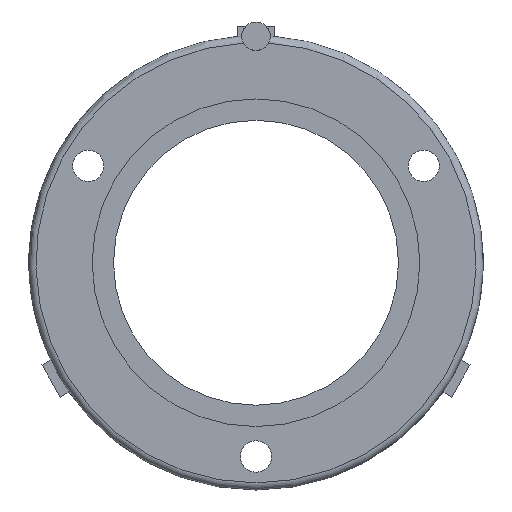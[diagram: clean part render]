
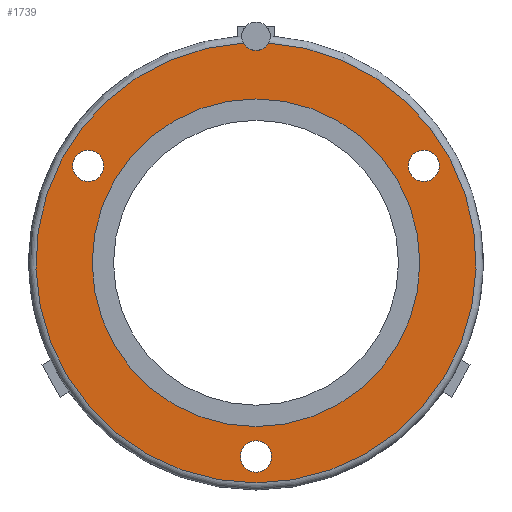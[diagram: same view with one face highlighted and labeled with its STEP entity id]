
A CAD part, left-side view. The second image highlights one B-rep face of the part: STEP entity #1739.
In plain terms, the highlighted planar face has unit normal (-1, 0, 0).
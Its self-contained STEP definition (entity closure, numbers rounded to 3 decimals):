
#97 = TOROIDAL_SURFACE('',#98,15.45,0.5);
#98 = AXIS2_PLACEMENT_3D('',#99,#100,#101);
#99 = CARTESIAN_POINT('',(13.,0.,181.));
#100 = DIRECTION('',(-1.,-0.,-0.));
#101 = DIRECTION('',(-0.,0.,1.));
#1216 = CYLINDRICAL_SURFACE('',#1217,1.);
#1217 = AXIS2_PLACEMENT_3D('',#1218,#1219,#1220);
#1218 = CARTESIAN_POINT('',(9.25,0.,196.9));
#1219 = DIRECTION('',(1.,0.,0.));
#1220 = DIRECTION('',(-0.,0.,1.));
#1256 = VERTEX_POINT('',#1257);
#1257 = CARTESIAN_POINT('',(12.5,-0.88,196.425));
#1325 = VERTEX_POINT('',#1326);
#1326 = CARTESIAN_POINT('',(12.5,0.88,196.425));
#1392 = EDGE_CURVE('',#1256,#1325,#1393,.T.);
#1393 = SURFACE_CURVE('',#1394,(#1399,#1406),.PCURVE_S1.);
#1394 = CIRCLE('',#1395,15.45);
#1395 = AXIS2_PLACEMENT_3D('',#1396,#1397,#1398);
#1396 = CARTESIAN_POINT('',(12.5,0.,181.));
#1397 = DIRECTION('',(1.,0.,0.));
#1398 = DIRECTION('',(-0.,0.,1.));
#1399 = PCURVE('',#97,#1400);
#1400 = DEFINITIONAL_REPRESENTATION('',(#1401),#1405);
#1401 = LINE('',#1402,#1403);
#1402 = CARTESIAN_POINT('',(-0.,1.571));
#1403 = VECTOR('',#1404,1.);
#1404 = DIRECTION('',(-1.,0.));
#1405 = ( GEOMETRIC_REPRESENTATION_CONTEXT(2) 
PARAMETRIC_REPRESENTATION_CONTEXT() REPRESENTATION_CONTEXT('2D SPACE',''
  ) );
#1406 = PCURVE('',#1407,#1412);
#1407 = PLANE('',#1408);
#1408 = AXIS2_PLACEMENT_3D('',#1409,#1410,#1411);
#1409 = CARTESIAN_POINT('',(12.5,0.,181.));
#1410 = DIRECTION('',(1.,0.,0.));
#1411 = DIRECTION('',(-0.,0.,1.));
#1412 = DEFINITIONAL_REPRESENTATION('',(#1413),#1417);
#1413 = CIRCLE('',#1414,15.45);
#1414 = AXIS2_PLACEMENT_2D('',#1415,#1416);
#1415 = CARTESIAN_POINT('',(0.,0.));
#1416 = DIRECTION('',(1.,0.));
#1417 = ( GEOMETRIC_REPRESENTATION_CONTEXT(2) 
PARAMETRIC_REPRESENTATION_CONTEXT() REPRESENTATION_CONTEXT('2D SPACE',''
  ) );
#1688 = EDGE_CURVE('',#1256,#1325,#1689,.T.);
#1689 = SURFACE_CURVE('',#1690,(#1695,#1702),.PCURVE_S1.);
#1690 = CIRCLE('',#1691,1.);
#1691 = AXIS2_PLACEMENT_3D('',#1692,#1693,#1694);
#1692 = CARTESIAN_POINT('',(12.5,0.,196.9));
#1693 = DIRECTION('',(1.,0.,0.));
#1694 = DIRECTION('',(-0.,0.,1.));
#1695 = PCURVE('',#1216,#1696);
#1696 = DEFINITIONAL_REPRESENTATION('',(#1697),#1701);
#1697 = LINE('',#1698,#1699);
#1698 = CARTESIAN_POINT('',(0.,3.25));
#1699 = VECTOR('',#1700,1.);
#1700 = DIRECTION('',(1.,0.));
#1701 = ( GEOMETRIC_REPRESENTATION_CONTEXT(2) 
PARAMETRIC_REPRESENTATION_CONTEXT() REPRESENTATION_CONTEXT('2D SPACE',''
  ) );
#1702 = PCURVE('',#1407,#1703);
#1703 = DEFINITIONAL_REPRESENTATION('',(#1704),#1708);
#1704 = CIRCLE('',#1705,1.);
#1705 = AXIS2_PLACEMENT_2D('',#1706,#1707);
#1706 = CARTESIAN_POINT('',(15.9,0.));
#1707 = DIRECTION('',(1.,0.));
#1708 = ( GEOMETRIC_REPRESENTATION_CONTEXT(2) 
PARAMETRIC_REPRESENTATION_CONTEXT() REPRESENTATION_CONTEXT('2D SPACE',''
  ) );
#1739 = ADVANCED_FACE('',(#1740,#1744,#1775,#1806,#1837),#1407,.F.);
#1740 = FACE_BOUND('',#1741,.F.);
#1741 = EDGE_LOOP('',(#1742,#1743));
#1742 = ORIENTED_EDGE('',*,*,#1688,.F.);
#1743 = ORIENTED_EDGE('',*,*,#1392,.T.);
#1744 = FACE_BOUND('',#1745,.F.);
#1745 = EDGE_LOOP('',(#1746));
#1746 = ORIENTED_EDGE('',*,*,#1747,.F.);
#1747 = EDGE_CURVE('',#1748,#1748,#1750,.T.);
#1748 = VERTEX_POINT('',#1749);
#1749 = CARTESIAN_POINT('',(12.5,11.778,188.9));
#1750 = SURFACE_CURVE('',#1751,(#1756,#1763),.PCURVE_S1.);
#1751 = CIRCLE('',#1752,1.1);
#1752 = AXIS2_PLACEMENT_3D('',#1753,#1754,#1755);
#1753 = CARTESIAN_POINT('',(12.5,11.778,187.8));
#1754 = DIRECTION('',(1.,0.,0.));
#1755 = DIRECTION('',(-0.,0.,1.));
#1756 = PCURVE('',#1407,#1757);
#1757 = DEFINITIONAL_REPRESENTATION('',(#1758),#1762);
#1758 = CIRCLE('',#1759,1.1);
#1759 = AXIS2_PLACEMENT_2D('',#1760,#1761);
#1760 = CARTESIAN_POINT('',(6.8,-11.778));
#1761 = DIRECTION('',(1.,0.));
#1762 = ( GEOMETRIC_REPRESENTATION_CONTEXT(2) 
PARAMETRIC_REPRESENTATION_CONTEXT() REPRESENTATION_CONTEXT('2D SPACE',''
  ) );
#1763 = PCURVE('',#1764,#1769);
#1764 = CYLINDRICAL_SURFACE('',#1765,1.1);
#1765 = AXIS2_PLACEMENT_3D('',#1766,#1767,#1768);
#1766 = CARTESIAN_POINT('',(11.5,11.778,187.8));
#1767 = DIRECTION('',(1.,0.,0.));
#1768 = DIRECTION('',(-0.,0.,1.));
#1769 = DEFINITIONAL_REPRESENTATION('',(#1770),#1774);
#1770 = LINE('',#1771,#1772);
#1771 = CARTESIAN_POINT('',(0.,1.));
#1772 = VECTOR('',#1773,1.);
#1773 = DIRECTION('',(1.,0.));
#1774 = ( GEOMETRIC_REPRESENTATION_CONTEXT(2) 
PARAMETRIC_REPRESENTATION_CONTEXT() REPRESENTATION_CONTEXT('2D SPACE',''
  ) );
#1775 = FACE_BOUND('',#1776,.F.);
#1776 = EDGE_LOOP('',(#1777));
#1777 = ORIENTED_EDGE('',*,*,#1778,.F.);
#1778 = EDGE_CURVE('',#1779,#1779,#1781,.T.);
#1779 = VERTEX_POINT('',#1780);
#1780 = CARTESIAN_POINT('',(12.5,0.,168.5));
#1781 = SURFACE_CURVE('',#1782,(#1787,#1794),.PCURVE_S1.);
#1782 = CIRCLE('',#1783,1.1);
#1783 = AXIS2_PLACEMENT_3D('',#1784,#1785,#1786);
#1784 = CARTESIAN_POINT('',(12.5,0.,167.4));
#1785 = DIRECTION('',(1.,0.,0.));
#1786 = DIRECTION('',(-0.,0.,1.));
#1787 = PCURVE('',#1407,#1788);
#1788 = DEFINITIONAL_REPRESENTATION('',(#1789),#1793);
#1789 = CIRCLE('',#1790,1.1);
#1790 = AXIS2_PLACEMENT_2D('',#1791,#1792);
#1791 = CARTESIAN_POINT('',(-13.6,0.));
#1792 = DIRECTION('',(1.,0.));
#1793 = ( GEOMETRIC_REPRESENTATION_CONTEXT(2) 
PARAMETRIC_REPRESENTATION_CONTEXT() REPRESENTATION_CONTEXT('2D SPACE',''
  ) );
#1794 = PCURVE('',#1795,#1800);
#1795 = CYLINDRICAL_SURFACE('',#1796,1.1);
#1796 = AXIS2_PLACEMENT_3D('',#1797,#1798,#1799);
#1797 = CARTESIAN_POINT('',(11.5,0.,167.4));
#1798 = DIRECTION('',(1.,0.,0.));
#1799 = DIRECTION('',(-0.,0.,1.));
#1800 = DEFINITIONAL_REPRESENTATION('',(#1801),#1805);
#1801 = LINE('',#1802,#1803);
#1802 = CARTESIAN_POINT('',(0.,1.));
#1803 = VECTOR('',#1804,1.);
#1804 = DIRECTION('',(1.,0.));
#1805 = ( GEOMETRIC_REPRESENTATION_CONTEXT(2) 
PARAMETRIC_REPRESENTATION_CONTEXT() REPRESENTATION_CONTEXT('2D SPACE',''
  ) );
#1806 = FACE_BOUND('',#1807,.F.);
#1807 = EDGE_LOOP('',(#1808));
#1808 = ORIENTED_EDGE('',*,*,#1809,.F.);
#1809 = EDGE_CURVE('',#1810,#1810,#1812,.T.);
#1810 = VERTEX_POINT('',#1811);
#1811 = CARTESIAN_POINT('',(12.5,0.,192.5));
#1812 = SURFACE_CURVE('',#1813,(#1818,#1825),.PCURVE_S1.);
#1813 = CIRCLE('',#1814,11.5);
#1814 = AXIS2_PLACEMENT_3D('',#1815,#1816,#1817);
#1815 = CARTESIAN_POINT('',(12.5,0.,181.));
#1816 = DIRECTION('',(1.,0.,0.));
#1817 = DIRECTION('',(-0.,0.,1.));
#1818 = PCURVE('',#1407,#1819);
#1819 = DEFINITIONAL_REPRESENTATION('',(#1820),#1824);
#1820 = CIRCLE('',#1821,11.5);
#1821 = AXIS2_PLACEMENT_2D('',#1822,#1823);
#1822 = CARTESIAN_POINT('',(0.,0.));
#1823 = DIRECTION('',(1.,0.));
#1824 = ( GEOMETRIC_REPRESENTATION_CONTEXT(2) 
PARAMETRIC_REPRESENTATION_CONTEXT() REPRESENTATION_CONTEXT('2D SPACE',''
  ) );
#1825 = PCURVE('',#1826,#1831);
#1826 = CYLINDRICAL_SURFACE('',#1827,11.5);
#1827 = AXIS2_PLACEMENT_3D('',#1828,#1829,#1830);
#1828 = CARTESIAN_POINT('',(11.5,0.,181.));
#1829 = DIRECTION('',(1.,0.,0.));
#1830 = DIRECTION('',(-0.,0.,1.));
#1831 = DEFINITIONAL_REPRESENTATION('',(#1832),#1836);
#1832 = LINE('',#1833,#1834);
#1833 = CARTESIAN_POINT('',(0.,1.));
#1834 = VECTOR('',#1835,1.);
#1835 = DIRECTION('',(1.,0.));
#1836 = ( GEOMETRIC_REPRESENTATION_CONTEXT(2) 
PARAMETRIC_REPRESENTATION_CONTEXT() REPRESENTATION_CONTEXT('2D SPACE',''
  ) );
#1837 = FACE_BOUND('',#1838,.F.);
#1838 = EDGE_LOOP('',(#1839));
#1839 = ORIENTED_EDGE('',*,*,#1840,.F.);
#1840 = EDGE_CURVE('',#1841,#1841,#1843,.T.);
#1841 = VERTEX_POINT('',#1842);
#1842 = CARTESIAN_POINT('',(12.5,-11.778,188.9));
#1843 = SURFACE_CURVE('',#1844,(#1849,#1856),.PCURVE_S1.);
#1844 = CIRCLE('',#1845,1.1);
#1845 = AXIS2_PLACEMENT_3D('',#1846,#1847,#1848);
#1846 = CARTESIAN_POINT('',(12.5,-11.778,187.8));
#1847 = DIRECTION('',(1.,0.,0.));
#1848 = DIRECTION('',(-0.,0.,1.));
#1849 = PCURVE('',#1407,#1850);
#1850 = DEFINITIONAL_REPRESENTATION('',(#1851),#1855);
#1851 = CIRCLE('',#1852,1.1);
#1852 = AXIS2_PLACEMENT_2D('',#1853,#1854);
#1853 = CARTESIAN_POINT('',(6.8,11.778));
#1854 = DIRECTION('',(1.,0.));
#1855 = ( GEOMETRIC_REPRESENTATION_CONTEXT(2) 
PARAMETRIC_REPRESENTATION_CONTEXT() REPRESENTATION_CONTEXT('2D SPACE',''
  ) );
#1856 = PCURVE('',#1857,#1862);
#1857 = CYLINDRICAL_SURFACE('',#1858,1.1);
#1858 = AXIS2_PLACEMENT_3D('',#1859,#1860,#1861);
#1859 = CARTESIAN_POINT('',(11.5,-11.778,187.8));
#1860 = DIRECTION('',(1.,0.,0.));
#1861 = DIRECTION('',(-0.,0.,1.));
#1862 = DEFINITIONAL_REPRESENTATION('',(#1863),#1867);
#1863 = LINE('',#1864,#1865);
#1864 = CARTESIAN_POINT('',(0.,1.));
#1865 = VECTOR('',#1866,1.);
#1866 = DIRECTION('',(1.,0.));
#1867 = ( GEOMETRIC_REPRESENTATION_CONTEXT(2) 
PARAMETRIC_REPRESENTATION_CONTEXT() REPRESENTATION_CONTEXT('2D SPACE',''
  ) );
